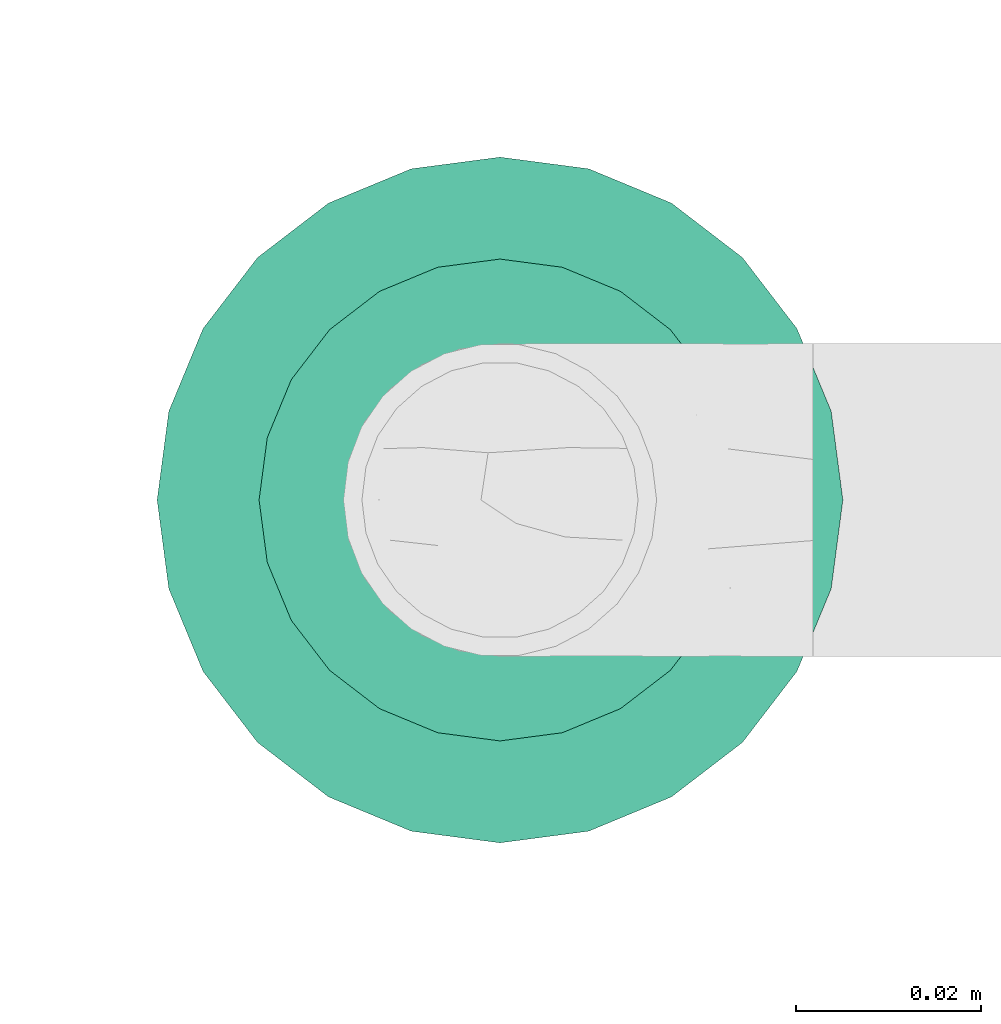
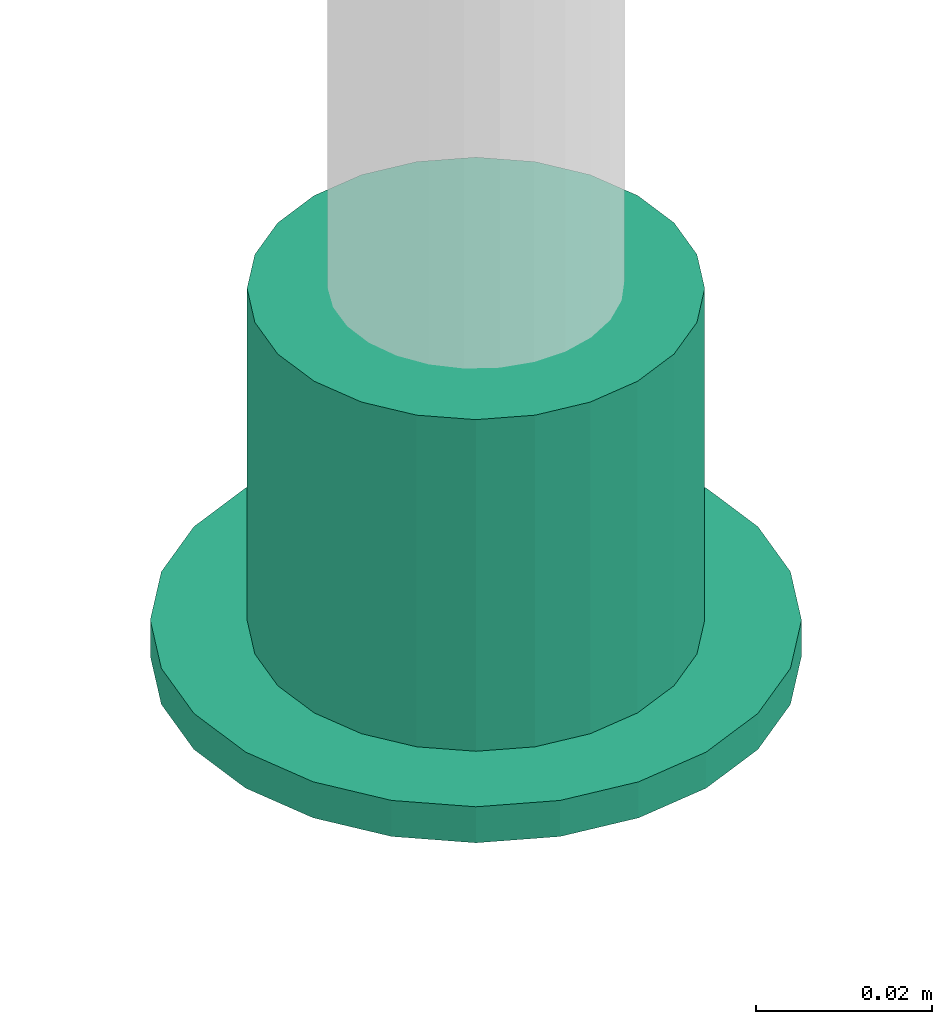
# One storey, part 36 of 95: 1 flow terminal.
"""IFC2X3 building model written with IfcOpenShell, lengths in millimetres."""

from ifc_helpers import new_model, entity, si_unit, converted_unit, derived_unit, direction, frame, origin_with_axes, place, context, subcontext, project, spatial, open_shell, surface_model, source, transform, mapped, type_object, element, save


model = new_model("IFC2X3")

# Units and contexts
model_context = context("Model", 3, precision=0.01, world=frame((0.0, 4.29681676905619e-09, 0.0)), true_north=direction((4.01073788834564e-13, 1.0)))
plan_context = context("Plan", 3, precision=0.01, world=frame((0.0, 4.29681676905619e-09, 0.0)), true_north=direction((4.01073788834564e-13, 1.0)))
body_context = subcontext(model_context, "Body", "Model", "MODEL_VIEW")
ifc_project = project(units=[converted_unit("PLANEANGLEUNIT", "DEGREE", entity("IfcPositiveLengthMeasure", 0.0174532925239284), si_unit("PLANEANGLEUNIT", "RADIAN"), dimensions=[0, 0, 0, 0, 0, 0, 0]), si_unit("AREAUNIT", "SQUARE_METRE"), si_unit("LENGTHUNIT", "METRE", prefix="MILLI"), si_unit("MASSUNIT", "GRAM", prefix="KILO"), si_unit("POWERUNIT", "WATT"), si_unit("PRESSUREUNIT", "PASCAL"), si_unit("FORCEUNIT", "NEWTON", prefix="KILO"), si_unit("ELECTRICVOLTAGEUNIT", "VOLT"), si_unit("ELECTRICCURRENTUNIT", "AMPERE"), si_unit("THERMODYNAMICTEMPERATUREUNIT", "DEGREE_CELSIUS"), si_unit("TIMEUNIT", "SECOND"), si_unit("VOLUMEUNIT", "CUBIC_METRE"), derived_unit("LINEARVELOCITYUNIT", [(si_unit("LENGTHUNIT", "METRE"), 1), (si_unit("TIMEUNIT", "SECOND"), -1)]), derived_unit("VOLUMETRICFLOWRATEUNIT", [(si_unit("VOLUMEUNIT", "CUBIC_METRE"), 1), (si_unit("TIMEUNIT", "SECOND"), -1)]), derived_unit("THERMALTRANSMITTANCEUNIT", [(si_unit("POWERUNIT", "WATT"), 1), (si_unit("THERMODYNAMICTEMPERATUREUNIT", "KELVIN"), -1), (si_unit("AREAUNIT", "SQUARE_METRE"), -1)]), derived_unit("SOUNDPRESSUREUNIT", [(si_unit("PRESSUREUNIT", "PASCAL"), 1)])], contexts=[model_context, plan_context])

# Site, building, storey
site_placement = place(None, frame((0.0, -4.29681676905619e-09, 0.0), z_axis=(0.0, 0.0, 1.0), x_axis=(1.0, 0.0, 0.0)))
site = spatial("IfcSite", under=ifc_project, at=site_placement, CompositionType="ELEMENT")
building_placement = place(site_placement, frame((0.0, 4.29681676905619e-09, 0.0), z_axis=(0.0, 0.0, 1.0), x_axis=(1.0, 0.0, 0.0)))
building = spatial("IfcBuilding", under=site, at=building_placement, Name="mc-building", CompositionType="ELEMENT")
storey_placement = place(building_placement, frame((0.0, 0.0, 210900.0), z_axis=(0.0, 0.0, 1.0), x_axis=(1.0, 0.0, 0.0)))
storey = spatial("IfcBuildingStorey", under=building, at=storey_placement, Name="Nivå F", CompositionType="ELEMENT", Elevation=210900.0)

# Flow terminal
fire_suppression_terminal_type = type_object("IfcFireSuppressionTerminalType", Name="68DGR-STD-SKJULT I HIMLING", PredefinedType="NOTDEFINED")
shared_shape = source(origin_with_axes(), body_context, "Body", "SurfaceModel", [
    surface_model("IfcShellBasedSurfaceModel", [(6.72929, -25.11407, 0.0), (13.0, -22.51666, 0.0), (18.38478, -18.38478, 0.0), (-25.11407, -6.72929, 0.0), (25.11407, -6.72929, 0.0), (26.0, 0.0, 0.0), (22.51666, -13.0, 0.0), (-6.72929, -25.11407, 0.0), (-13.0, -22.51666, 0.0), (0.0, -26.0, 0.0), (-18.38478, -18.38478, 0.0), (-22.51666, -13.0, 0.0), (25.11407, 6.72929, 0.0), (22.51666, 13.0, 0.0), (18.38478, 18.38478, 0.0), (13.0, 22.51666, 0.0), (6.72929, 25.11407, 0.0), (0.0, 26.0, 0.0), (-18.38478, 18.38478, 0.0), (-26.0, 0.0, 0.0), (-22.51666, 13.0, 0.0), (-25.11407, 6.72929, 0.0), (-6.72929, 25.11407, 0.0), (-13.0, 22.51666, 0.0), (0.0, 26.0, -46.0), (6.72929, 25.11407, -46.0), (13.0, 22.51666, -46.0), (-25.11407, -6.72929, -46.0), (18.38478, 18.38478, -46.0), (22.51666, 13.0, -46.0), (25.11407, 6.72929, -46.0), (-18.38478, 18.38478, -46.0), (-6.72929, 25.11407, -46.0), (-13.0, 22.51666, -46.0), (-22.51666, 13.0, -46.0), (-26.0, 0.0, -46.0), (-25.11407, 6.72929, -46.0), (25.11407, -6.72929, -46.0), (18.38478, -18.38478, -46.0), (22.51666, -13.0, -46.0), (13.0, -22.51666, -46.0), (6.72929, -25.11407, -46.0), (-18.38478, -18.38478, -46.0), (-22.51666, -13.0, -46.0), (-13.0, -22.51666, -46.0), (-6.72929, -25.11407, -46.0), (0.0, -26.0, -46.0), (26.0, 0.0, -46.0), (35.73926, -9.57631, 5.0), (9.57631, -35.73926, 5.0), (18.5, -32.04294, 5.0), (32.04294, -18.5, 5.0), (26.16295, -26.16295, 5.0), (-18.5, -32.04294, 5.0), (-26.16295, -26.16295, 5.0), (37.0, 0.0, 5.0), (0.0, -37.0, 5.0), (-9.57631, -35.73926, 5.0), (-35.73926, -9.57631, 5.0), (-32.04294, -18.5, 5.0), (35.73926, 9.57631, 5.0), (0.0, 37.0, 5.0), (32.04294, 18.5, 5.0), (18.5, 32.04294, 5.0), (26.16295, 26.16295, 5.0), (9.57631, 35.73926, 5.0), (-9.57631, 35.73926, 5.0), (-35.73926, 9.57631, 5.0), (-26.16295, 26.16295, 5.0), (-32.04294, 18.5, 5.0), (-37.0, 0.0, 5.0), (-18.5, 32.04294, 5.0), (0.0, 37.0, 0.0), (9.57631, 35.73926, 0.0), (18.5, 32.04294, 0.0), (32.04294, 18.5, 0.0), (-26.16295, 26.16295, 0.0), (26.16295, 26.16295, 0.0), (35.73926, -9.57631, 0.0), (-9.57631, 35.73926, 0.0), (-18.5, 32.04294, 0.0), (-35.73926, 9.57631, 0.0), (-32.04294, 18.5, 0.0), (-26.16295, -26.16295, 0.0), (-37.0, 0.0, 0.0), (35.73926, 9.57631, 0.0), (37.0, 0.0, 0.0), (9.57631, -35.73926, 0.0), (18.5, -32.04294, 0.0), (32.04294, -18.5, 0.0), (26.16295, -26.16295, 0.0), (-18.5, -32.04294, 0.0), (-35.73926, -9.57631, 0.0), (-32.04294, -18.5, 0.0), (0.0, -37.0, 0.0), (-9.57631, -35.73926, 0.0)], [open_shell([[[0, 1, 2]], [[3, 0, 2]], [[4, 5, 2]], [[4, 2, 6]], [[3, 2, 5]], [[7, 3, 8]], [[7, 9, 0]], [[10, 3, 11]], [[3, 10, 8]], [[0, 3, 7]], [[5, 12, 3]], [[12, 13, 14]], [[12, 14, 15]], [[15, 16, 17]], [[17, 3, 15]], [[17, 18, 3]], [[19, 20, 21]], [[19, 3, 20]], [[18, 22, 23]], [[3, 18, 20]], [[17, 22, 18]], [[12, 15, 3]], [[24, 25, 26]], [[27, 24, 26]], [[28, 29, 30]], [[28, 30, 26]], [[27, 31, 24]], [[32, 31, 33]], [[32, 24, 31]], [[34, 35, 36]], [[35, 34, 31]], [[31, 27, 35]], [[27, 26, 30]], [[30, 37, 38]], [[38, 37, 39]], [[38, 40, 41]], [[38, 27, 30]], [[41, 27, 38]], [[27, 42, 43]], [[42, 27, 44]], [[27, 45, 44]], [[27, 41, 45]], [[41, 46, 45]], [[37, 30, 47]], [[3, 27, 43]], [[42, 11, 43]], [[8, 44, 45]], [[42, 44, 10]], [[7, 45, 46]], [[19, 35, 3]], [[35, 27, 3]], [[43, 11, 3]], [[42, 10, 11]], [[8, 10, 44]], [[45, 7, 8]], [[46, 9, 7]], [[0, 41, 40]], [[38, 1, 40]], [[6, 39, 37]], [[38, 39, 2]], [[4, 37, 47]], [[41, 0, 9]], [[40, 1, 0]], [[38, 2, 1]], [[39, 6, 2]], [[4, 6, 37]], [[47, 5, 4]], [[41, 9, 46]], [[30, 12, 47]], [[29, 13, 30]], [[25, 24, 16]], [[28, 14, 29]], [[30, 13, 12]], [[12, 5, 47]], [[15, 26, 16]], [[26, 15, 14]], [[26, 25, 16]], [[14, 13, 29]], [[14, 28, 26]], [[24, 17, 16]], [[22, 32, 33]], [[31, 23, 33]], [[20, 34, 36]], [[31, 34, 18]], [[21, 36, 35]], [[32, 22, 17]], [[33, 23, 22]], [[31, 18, 23]], [[34, 20, 18]], [[21, 20, 36]], [[35, 19, 21]], [[32, 17, 24]], [[48, 49, 50]], [[51, 50, 52]], [[49, 48, 53]], [[48, 50, 51]], [[54, 48, 55]], [[56, 53, 57]], [[56, 49, 53]], [[54, 58, 59]], [[54, 53, 48]], [[58, 54, 55]], [[55, 60, 58]], [[61, 60, 62]], [[63, 62, 64]], [[63, 65, 61]], [[63, 61, 62]], [[60, 61, 66]], [[67, 68, 69]], [[70, 58, 67]], [[68, 66, 71]], [[67, 60, 68]], [[60, 66, 68]], [[67, 58, 60]], [[72, 73, 74]], [[72, 74, 75]], [[72, 75, 76]], [[75, 74, 77]], [[78, 76, 75]], [[79, 76, 80]], [[79, 72, 76]], [[76, 81, 82]], [[76, 78, 81]], [[81, 83, 84]], [[85, 86, 75]], [[81, 78, 87]], [[88, 78, 89]], [[88, 87, 78]], [[88, 89, 90]], [[91, 81, 87]], [[92, 83, 93]], [[84, 83, 92]], [[91, 94, 95]], [[83, 81, 91]], [[94, 91, 87]], [[78, 75, 86]], [[92, 58, 84]], [[93, 59, 92]], [[53, 83, 91]], [[93, 83, 54]], [[57, 91, 95]], [[92, 59, 58]], [[58, 70, 84]], [[57, 53, 91]], [[54, 83, 53]], [[54, 59, 93]], [[56, 57, 95]], [[95, 94, 56]], [[87, 49, 94]], [[88, 50, 87]], [[51, 90, 89]], [[88, 90, 52]], [[48, 89, 78]], [[88, 52, 50]], [[50, 49, 87]], [[55, 48, 78]], [[51, 89, 48]], [[51, 52, 90]], [[86, 55, 78]], [[94, 49, 56]], [[85, 60, 86]], [[75, 62, 85]], [[63, 77, 74]], [[75, 77, 64]], [[65, 74, 73]], [[85, 62, 60]], [[60, 55, 86]], [[65, 63, 74]], [[64, 77, 63]], [[64, 62, 75]], [[61, 65, 73]], [[73, 72, 61]], [[79, 66, 72]], [[80, 71, 79]], [[69, 76, 82]], [[80, 76, 68]], [[67, 82, 81]], [[80, 68, 71]], [[71, 66, 79]], [[70, 67, 81]], [[69, 82, 67]], [[69, 68, 76]], [[84, 70, 81]], [[72, 66, 61]]])]),
])
flow_terminal_placement = place(storey_placement, frame((534107.98071, 461000.75899, 3759.89999999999), z_axis=(0.0, 0.0, -1.0), x_axis=(-1.0, 0.0, 0.0)))
element("IfcFlowTerminal", 1, at=flow_terminal_placement, inside=storey, type_object=fire_suppression_terminal_type, Name="68DGR-STD-SKJULT I HIMLING", context=body_context, shape_type="MappedRepresentation", body=[
    mapped(shared_shape, transform((0.0, 0.0, 0.0), scale=1.0)),
])

save(model, "model.ifc")
